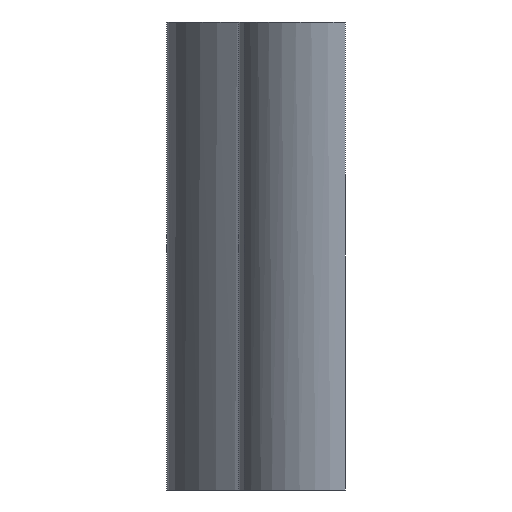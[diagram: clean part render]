
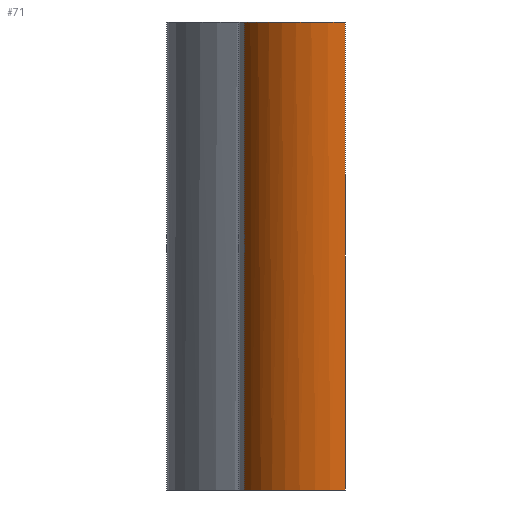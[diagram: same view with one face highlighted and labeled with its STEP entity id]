
A CAD part, left-side view. The second image highlights one B-rep face of the part: STEP entity #71.
In plain terms, the highlighted free-form (B-spline) face has degree [3, 1] with [4, 2] control points.
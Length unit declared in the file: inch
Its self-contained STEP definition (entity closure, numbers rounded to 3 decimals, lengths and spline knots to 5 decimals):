
#71=ADVANCED_FACE('',(#140),#141,.T.);
#140=FACE_OUTER_BOUND('',#267,.T.);
#141=B_SPLINE_SURFACE_WITH_KNOTS('',3,1,((#268,#269),(#270,#271),(#272,#273),(#274,#275)),.UNSPECIFIED.,.F.,.F.,.F.,(4,4),(2,2),(0.0,1.0),(0.0,0.8125),.UNSPECIFIED.);
#267=EDGE_LOOP('',(#408,#409,#410,#411));
#268=CARTESIAN_POINT('',(0.1249,0.17487,0.0));
#269=CARTESIAN_POINT('',(0.1249,0.17487,0.8125));
#270=CARTESIAN_POINT('',(0.05017,0.14925,0.0));
#271=CARTESIAN_POINT('',(0.05017,0.14925,0.8125));
#272=CARTESIAN_POINT('',(0.0,0.07899,0.0));
#273=CARTESIAN_POINT('',(0.0,0.07899,0.8125));
#274=CARTESIAN_POINT('',(0.0,0.0,0.0));
#275=CARTESIAN_POINT('',(0.0,0.0,0.8125));
#408=ORIENTED_EDGE('',*,*,#483,.T.);
#409=ORIENTED_EDGE('',*,*,#495,.F.);
#410=ORIENTED_EDGE('',*,*,#456,.T.);
#411=ORIENTED_EDGE('',*,*,#474,.T.);
#456=EDGE_CURVE('',#541,#538,#542,.T.);
#474=EDGE_CURVE('',#538,#567,#569,.T.);
#483=EDGE_CURVE('',#567,#580,#581,.T.);
#495=EDGE_CURVE('',#541,#580,#594,.T.);
#538=VERTEX_POINT('',#669);
#541=VERTEX_POINT('',#673);
#542=B_SPLINE_CURVE_WITH_KNOTS('',3,(#674,#675,#676,#677),.UNSPECIFIED.,.F.,.F.,(4,4),(0.0,1.0),.UNSPECIFIED.);
#567=VERTEX_POINT('',#729);
#569=LINE('',#732,#733);
#580=VERTEX_POINT('',#751);
#581=B_SPLINE_CURVE_WITH_KNOTS('',3,(#752,#753,#754,#755),.UNSPECIFIED.,.F.,.F.,(4,4),(-1.0,-0.0),.UNSPECIFIED.);
#594=LINE('',#784,#785);
#669=CARTESIAN_POINT('',(0.0,0.0,0.0));
#673=CARTESIAN_POINT('',(0.1249,0.17487,0.0));
#674=CARTESIAN_POINT('',(0.1249,0.17487,0.0));
#675=CARTESIAN_POINT('',(0.05017,0.14925,0.0));
#676=CARTESIAN_POINT('',(0.0,0.07899,0.0));
#677=CARTESIAN_POINT('',(0.0,0.0,0.0));
#729=CARTESIAN_POINT('',(0.0,0.0,0.8125));
#732=CARTESIAN_POINT('',(0.0,0.0,0.0));
#733=VECTOR('',#812,1.0);
#751=CARTESIAN_POINT('',(0.1249,0.17487,0.8125));
#752=CARTESIAN_POINT('',(0.0,0.0,0.8125));
#753=CARTESIAN_POINT('',(0.0,0.07899,0.8125));
#754=CARTESIAN_POINT('',(0.05017,0.14925,0.8125));
#755=CARTESIAN_POINT('',(0.1249,0.17487,0.8125));
#784=CARTESIAN_POINT('',(0.1249,0.17487,0.0));
#785=VECTOR('',#818,1.0);
#812=DIRECTION('',(0.0,0.0,1.0));
#818=DIRECTION('',(0.0,0.0,1.0));
